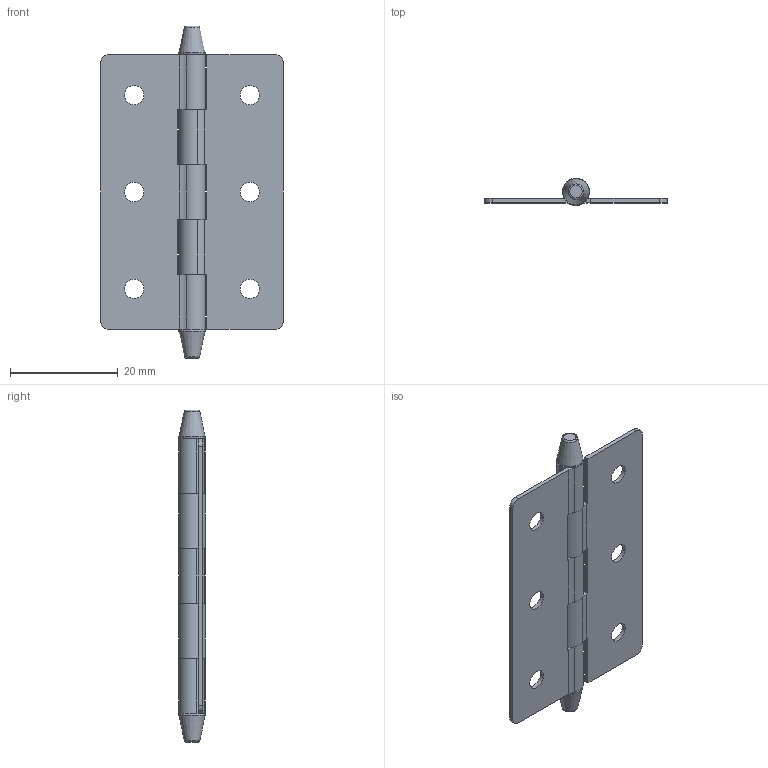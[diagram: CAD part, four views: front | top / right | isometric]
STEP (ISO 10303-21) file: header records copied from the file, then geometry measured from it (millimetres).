
FILE_DESCRIPTION(/* description */ (''),/* implementation_level */ '2;1');
FILE_NAME(/* name */ '\\NAS\db20\HD5034-08\DR_HD5034-08.stp',/* time_stamp */ '2017-08-17T10:32:03+09:00',/* author */ ('user'),/* organization */ (''),/* preprocessor_version */ 'ST-DEVELOPER v15.6',/* originating_system */ 'Autodesk Inventor 2015',/* authorisation */ '');
FILE_SCHEMA (('AUTOMOTIVE_DESIGN { 1 0 10303 214 3 1 1 }'));
Length unit declared in the file: millimetre
Products named in the file (1): DR_HD5034-08
Bounding box: 34 x 4.99 x 61.7 mm (x, y, z)
Volume: 2257 mm3; surface area: 5230.7 mm2
Topology: 3 solids, 3 shells, 69 faces, 185 edges, 124 vertices
Faces by surface type: plane 32, cylinder 31, torus 4, cone 2
Full cylindrical faces by diameter (mm): 3.4 x1, 3.6 x6
Entity records: 2112 total; most frequent: DIRECTION 376, CARTESIAN_POINT 354, ORIENTED_EDGE 332, EDGE_CURVE 166, AXIS2_PLACEMENT_3D 140, VERTEX_POINT 118, EDGE_LOOP 96, LINE 96
